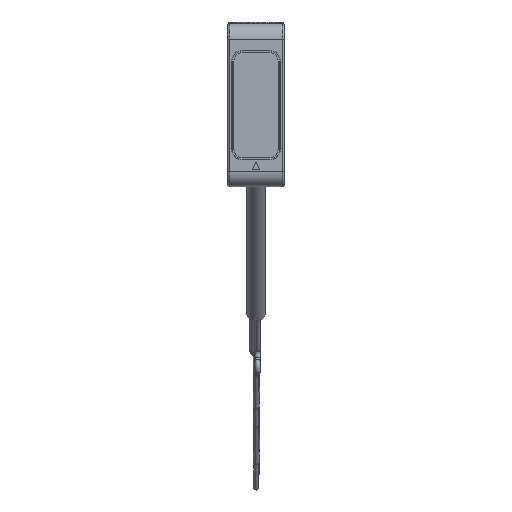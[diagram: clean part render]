
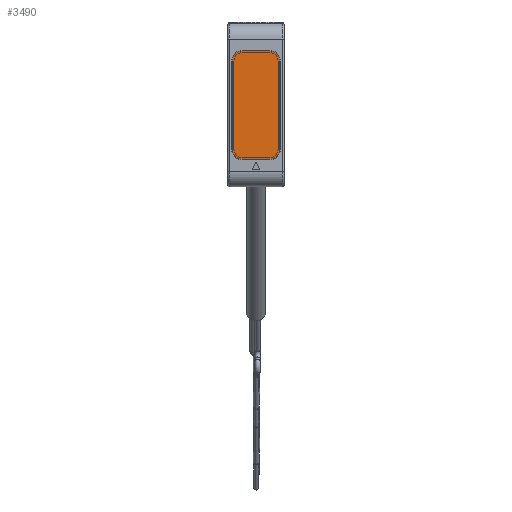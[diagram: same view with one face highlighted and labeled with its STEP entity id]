
A CAD part, top view. The second image highlights one B-rep face of the part: STEP entity #3490.
In plain terms, the highlighted planar face has unit normal (0, 0, 1).
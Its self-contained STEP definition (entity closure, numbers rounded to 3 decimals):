
#2880=CIRCLE('',#24254,1.95);
#2881=CIRCLE('',#24257,1.95);
#2882=CIRCLE('',#24260,1.95);
#2883=CIRCLE('',#24263,1.95);
#3490=ADVANCED_FACE('',(#5397),#4806,.T.);
#4806=PLANE('',#24266);
#5397=FACE_OUTER_BOUND('',#6619,.T.);
#6619=EDGE_LOOP('',(#8346,#8347,#8348,#8349,#8350,#8351,#8352,#8353));
#8346=ORIENTED_EDGE('',*,*,#17002,.F.);
#8347=ORIENTED_EDGE('',*,*,#17016,.T.);
#8348=ORIENTED_EDGE('',*,*,#17014,.F.);
#8349=ORIENTED_EDGE('',*,*,#17012,.T.);
#8350=ORIENTED_EDGE('',*,*,#17010,.F.);
#8351=ORIENTED_EDGE('',*,*,#17008,.T.);
#8352=ORIENTED_EDGE('',*,*,#17006,.F.);
#8353=ORIENTED_EDGE('',*,*,#17004,.T.);
#14748=VERTEX_POINT('',#31359);
#14749=VERTEX_POINT('',#31361);
#14750=VERTEX_POINT('',#31365);
#14751=VERTEX_POINT('',#31369);
#14752=VERTEX_POINT('',#31373);
#14753=VERTEX_POINT('',#31377);
#14754=VERTEX_POINT('',#31381);
#14755=VERTEX_POINT('',#31385);
#17002=EDGE_CURVE('',#14748,#14749,#2880,.T.);
#17004=EDGE_CURVE('',#14750,#14749,#20325,.T.);
#17006=EDGE_CURVE('',#14750,#14751,#2881,.T.);
#17008=EDGE_CURVE('',#14752,#14751,#20328,.T.);
#17010=EDGE_CURVE('',#14752,#14753,#2882,.T.);
#17012=EDGE_CURVE('',#14754,#14753,#20331,.T.);
#17014=EDGE_CURVE('',#14754,#14755,#2883,.T.);
#17016=EDGE_CURVE('',#14748,#14755,#20334,.T.);
#20325=LINE('',#31364,#22156);
#20328=LINE('',#31372,#22159);
#20331=LINE('',#31380,#22162);
#20334=LINE('',#31388,#22165);
#22156=VECTOR('',#26028,1.);
#22159=VECTOR('',#26037,1.);
#22162=VECTOR('',#26046,1.);
#22165=VECTOR('',#26055,1.);
#24254=AXIS2_PLACEMENT_3D('',#31360,#26023,#26024);
#24257=AXIS2_PLACEMENT_3D('',#31368,#26032,#26033);
#24260=AXIS2_PLACEMENT_3D('',#31376,#26041,#26042);
#24263=AXIS2_PLACEMENT_3D('',#31384,#26050,#26051);
#24266=AXIS2_PLACEMENT_3D('',#31390,#26058,#26059);
#26023=DIRECTION('',(0.,0.,-1.));
#26024=DIRECTION('',(1.,0.,0.));
#26028=DIRECTION('',(1.,0.,0.));
#26032=DIRECTION('',(0.,0.,-1.));
#26033=DIRECTION('',(0.,-1.,0.));
#26037=DIRECTION('',(0.,-1.,0.));
#26041=DIRECTION('',(0.,0.,-1.));
#26042=DIRECTION('',(-1.,0.,0.));
#26046=DIRECTION('',(-1.,0.,0.));
#26050=DIRECTION('',(0.,0.,-1.));
#26051=DIRECTION('',(0.,1.,0.));
#26055=DIRECTION('',(0.,1.,0.));
#26058=DIRECTION('',(0.,0.,1.));
#26059=DIRECTION('',(1.,0.,0.));
#31359=CARTESIAN_POINT('',(4.6,-8.5,0.));
#31360=CARTESIAN_POINT('',(2.65,-8.5,0.));
#31361=CARTESIAN_POINT('',(2.65,-10.45,0.));
#31364=CARTESIAN_POINT('',(-2.65,-10.45,0.));
#31365=CARTESIAN_POINT('',(-2.65,-10.45,0.));
#31368=CARTESIAN_POINT('',(-2.65,-8.5,0.));
#31369=CARTESIAN_POINT('',(-4.6,-8.5,0.));
#31372=CARTESIAN_POINT('',(-4.6,8.5,0.));
#31373=CARTESIAN_POINT('',(-4.6,8.5,0.));
#31376=CARTESIAN_POINT('',(-2.65,8.5,0.));
#31377=CARTESIAN_POINT('',(-2.65,10.45,0.));
#31380=CARTESIAN_POINT('',(2.65,10.45,0.));
#31381=CARTESIAN_POINT('',(2.65,10.45,0.));
#31384=CARTESIAN_POINT('',(2.65,8.5,0.));
#31385=CARTESIAN_POINT('',(4.6,8.5,0.));
#31388=CARTESIAN_POINT('',(4.6,-8.5,0.));
#31390=CARTESIAN_POINT('',(0.,0.,0.));
